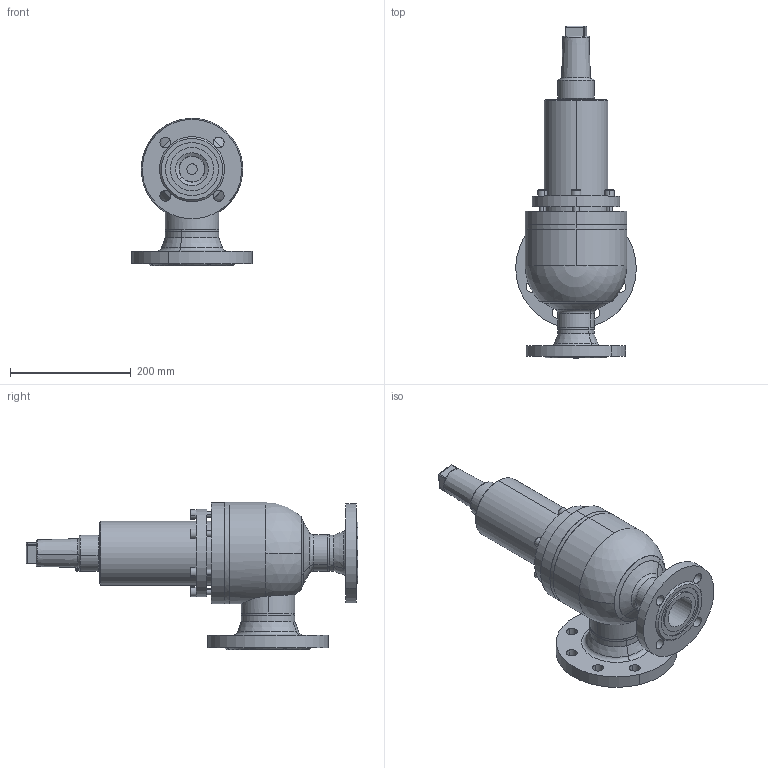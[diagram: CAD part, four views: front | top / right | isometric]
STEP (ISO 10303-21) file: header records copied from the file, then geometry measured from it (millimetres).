
FILE_DESCRIPTION (( 'STEP AP214' ), '1' );
FILE_NAME ('SVUB44200C15-DN50-(80)_DIN-FL.STEP', '2010-09-10T06:24:15', ( 'Eckhard Grams' ), ( 'AWP Kälte Klima Armaturen GmbH' ), 'SwSTEP 2.0', 'SolidWorks 2002296', '' );
FILE_SCHEMA (( 'AUTOMOTIVE_DESIGN' ));
Length unit declared in the file: millimetre
Products named in the file (19): SVUB44200C15-DN50-(80)_DIN-FL; Loser-FL44200-15-DN50-SVU_PS25_Standard; Flach-Dichtring44331-20-65_DN 50; Geh,kpl 44331-15-DN50-(80)_DIN-FL-N_Standard; Geh,kpl 44331-15-DN50-(80)_R1_PS25_Standard; Sitzstutzen44331-15-DN50_kpl-im-geh_Standard; Rohrstutzen-A44331-15-DN50-(80)_R1_SVU; Geh44331-15-DN50_R1_DN50-80; Kopfstück44331-15-DN50_Standard; bead44331-15-Gehkpl1_Standard; bead44331-15-Sitzst-Geh_Standard; Flansch-DIN2635-Nut_PS40_DIN-Flansch-DN080_PS40-Nut; bead44331-15-Flana-A_Standard; bead44331-15-Flana-E_Standard; Flansch-DIN2635-Nut_PS40_DIN-Flansch-DN050_PS40-Nut; Haube44331-15-DN50_kpl-lt-ZG_Standard; Zylinderschraube-DIN912_M10x 35; geteilter Ring4433-15-DN50_PS25_Standard; Kappe 16402-15_DN40-65 (M52x3)_Standard
Assembly tree (23 placements, depth 4):
  SVUB44200C15-DN50-(80)_DIN-FL
    Flach-Dichtring44331-20-65_DN 50
    Zylinderschraube-DIN912_M10x 35  x6
    Geh,kpl 44331-15-DN50-(80)_DIN-FL-N_Standard
      Flansch-DIN2635-Nut_PS40_DIN-Flansch-DN080_PS40-Nut
      bead44331-15-Flana-A_Standard
      Flansch-DIN2635-Nut_PS40_DIN-Flansch-DN050_PS40-Nut
      bead44331-15-Flana-E_Standard
      Geh,kpl 44331-15-DN50-(80)_R1_PS25_Standard
        Geh44331-15-DN50_R1_DN50-80
        bead44331-15-Gehkpl1_Standard
        Kopfstück44331-15-DN50_Standard
        Sitzstutzen44331-15-DN50_kpl-im-geh_Standard
        bead44331-15-Sitzst-Geh_Standard
        Rohrstutzen-A44331-15-DN50-(80)_R1_SVU
    Kappe 16402-15_DN40-65 (M52x3)_Standard
    Loser-FL44200-15-DN50-SVU_PS25_Standard
    geteilter Ring4433-15-DN50_PS25_Standard
    Haube44331-15-DN50_kpl-lt-ZG_Standard
Bounding box: 199.81 x 550.5 x 244.15 mm (x, y, z)
Volume: 2742984.4 mm3; surface area: 642228.2 mm2
Topology: 22 solids, 22 shells, 466 faces, 1096 edges, 676 vertices
Faces by surface type: cylinder 188, plane 125, cone 85, torus 37, bspline 26, sphere 5
Entity records: 21509 total; most frequent: CARTESIAN_POINT 11814, DIRECTION 1942, ORIENTED_EDGE 1784, EDGE_CURVE 892, AXIS2_PLACEMENT_3D 824, VERTEX_POINT 556, EDGE_LOOP 450, CIRCLE 446
